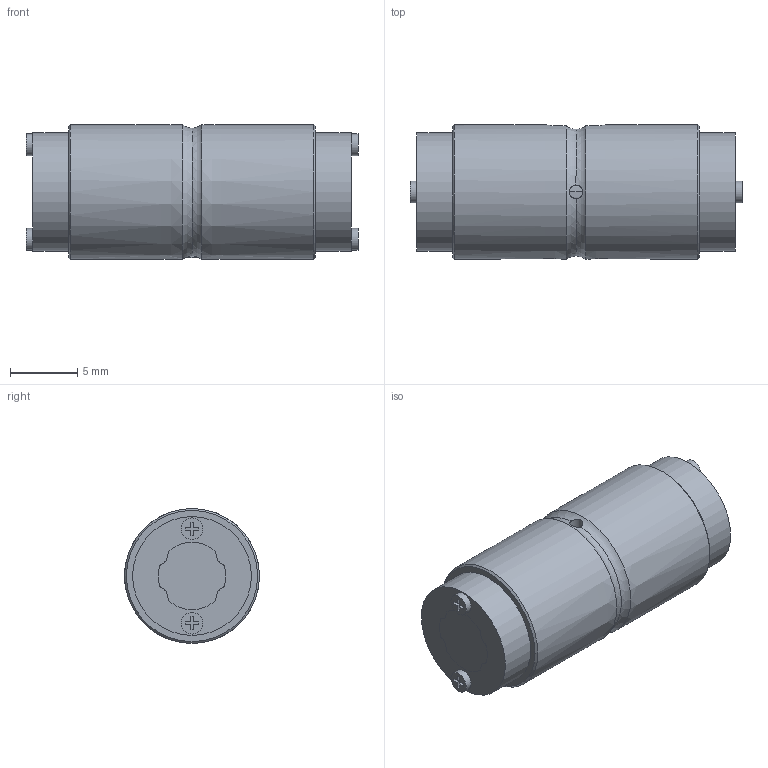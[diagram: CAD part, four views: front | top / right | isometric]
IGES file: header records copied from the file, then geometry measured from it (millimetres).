
Start section: Data from Parasolid IGES Translator 26.0.171, Copyright(c) 2006 Siemens PLM Software. All Rights Reserved.
Global section: file name: LT5XL+23.6L(00).igs; native system: By Siemens PLM Incorporated; preprocessor: XPlus GENERIC/IGES 26.0.171; author: Noname; organization: Noname; date: 20240528.070655; units: millimetre
Bounding box: 24.6 x 10 x 10 mm (x, y, z)
Surface area: 1672.8 mm2 (no closed solid volume)
Topology: 0 solids, 0 shells, 125 faces, 676 edges, 657 vertices
Faces by surface type: extrusion 73, revolution 52
